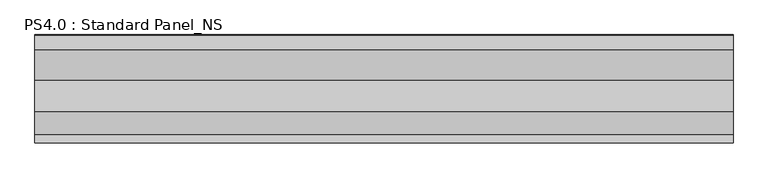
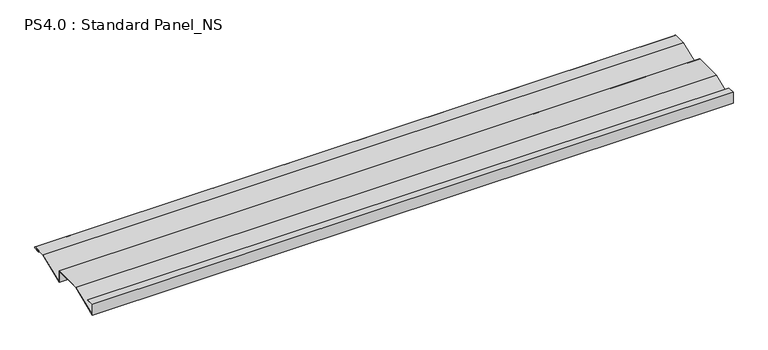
"""IFC4 building model written with IfcOpenShell, lengths in millimetres: proxy geometry, PS4.0 : Standard Panel_NS."""

from ifc_helpers import new_model, si_unit, point, frame, frame_2d, origin, place, context, project, spatial, polyline, circle_curve, trimmed, segment, composite_curve, outline, extrude, source, transform, mapped, element, save


def ps4_0_standard_panel_ns_3b503408(model_context):
    return source(origin(), model_context, "Body", "SweptSolid", [
        extrude(outline(composite_curve([segment(polyline([(0.0, 0.0), (25.0, 0.0), (25.0, -1.0), (1.0, -1.0), (1.0, -36.5171241), (95.0, 1.4828759), (189.0, 1.4828759), (189.0, -36.5171043), (281.8021557, 1.0), (325.0510156, 1.0)]), True, "CONTINUOUS"), segment(trimmed(circle_curve(frame_2d((324.3094696, -0.9153551)), 2.0538928), [point((325.0510156, 1.0))], [point((325.1748462, -2.778041))], False, "CARTESIAN"), True, "CONTINUOUS"), segment(polyline([(325.1748462, -2.778041), (308.7874714, -5.923107), (308.5989911, -4.94103), (324.8448691, -1.8231201)]), True, "CONTINUOUS"), segment(trimmed(circle_curve(frame_2d((324.3094696, -0.9153551)), 1.0538928), [point((324.8448691, -1.8231201))], [point((324.8317866, 0.0))], True, "CARTESIAN"), True, "CONTINUOUS"), segment(polyline([(324.8317866, 0.0), (281.9966446, 0.0), (188.0, -38.0), (188.0, 0.4828759), (95.1944825, 0.4828759), (0.0, -38.0), (0.0, 0.0)]), True, "CONTINUOUS")], self_intersect=False)), frame((0.0, 0.0, 0.0), z_axis=(1.0, 0.0, 0.0), x_axis=(0.0, 1.0, 0.0)), (0.0, 0.0, 1.0), 2100.0),
    ])


if __name__ == "__main__":
    model = new_model("IFC4")
    model_context = context("Model", 3, world=origin())
    ifc_project = project(units=[si_unit("LENGTHUNIT", "METRE", prefix="MILLI")], contexts=[model_context])
    site = spatial("IfcSite", under=ifc_project)
    building = spatial("IfcBuilding", under=site)
    placement = place(None, origin())
    ps4_0_standard_panel_ns_shape = ps4_0_standard_panel_ns_3b503408(model_context)
    element("IfcBuildingElementProxy", 1, Name="PS4.0 : Standard Panel_NS", ObjectType="PS4.0 : Standard Panel_NS", at=placement, inside=building, context=model_context, shape_type="MappedRepresentation", body=[
        mapped(ps4_0_standard_panel_ns_shape, transform((0.0, 0.0, 0.0), x_axis=(1.0, 0.0, 0.0), y_axis=(0.0, 1.0, 0.0), z_axis=(0.0, 0.0, 1.0))),
    ])
    save(model, "model.ifc")
